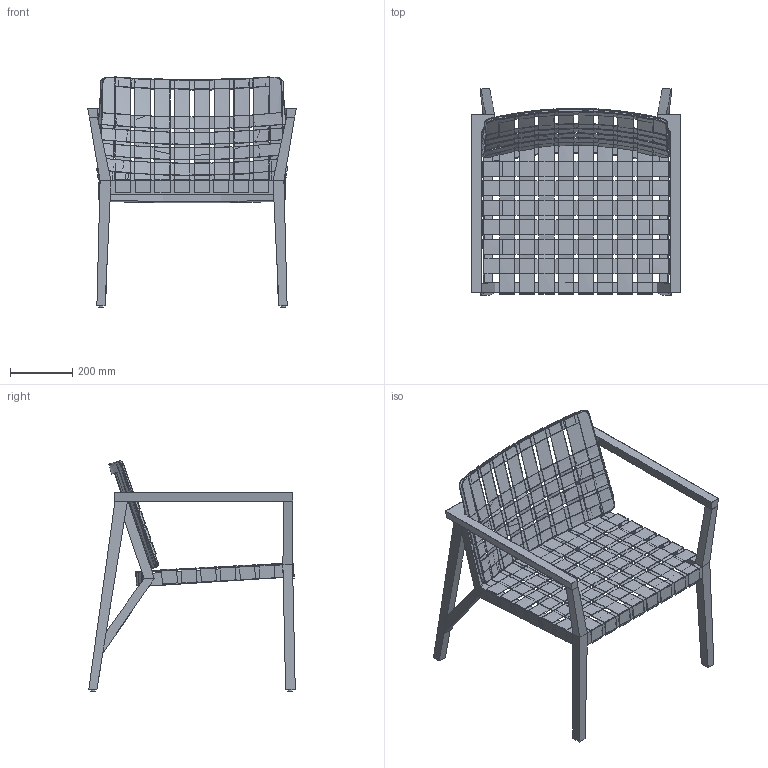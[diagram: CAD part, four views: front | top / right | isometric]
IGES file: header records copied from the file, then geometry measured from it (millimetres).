
Global section: file name: C:\Users\W10\Desktop\Capdell\DAVID_CAPDELL\MARTA\MARTA_EXPORTABLES\243\243CC.igs; native system: Rhinoceros ( Mar  4 2014 ); preprocessor: Trout Lake IGES 012 Mar  4 2014; date: 210217.090407; units: millimetre
Bounding box: 670 x 663.79 x 739.92 mm (x, y, z)
Surface area: 2536264.3 mm2 (no closed solid volume)
Topology: 0 solids, 0 shells, 2334 faces, 12659 edges, 12612 vertices
Faces by surface type: bspline 2334
